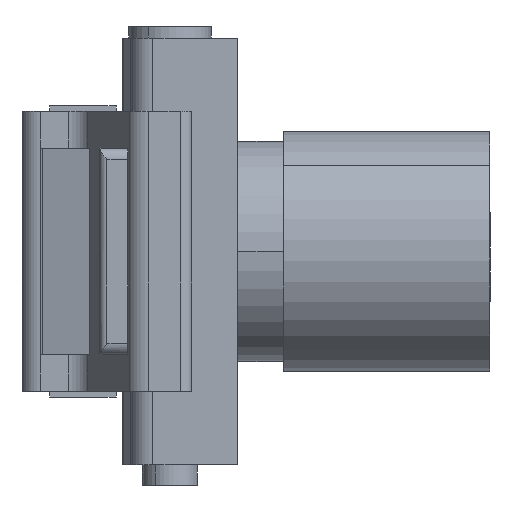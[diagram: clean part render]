
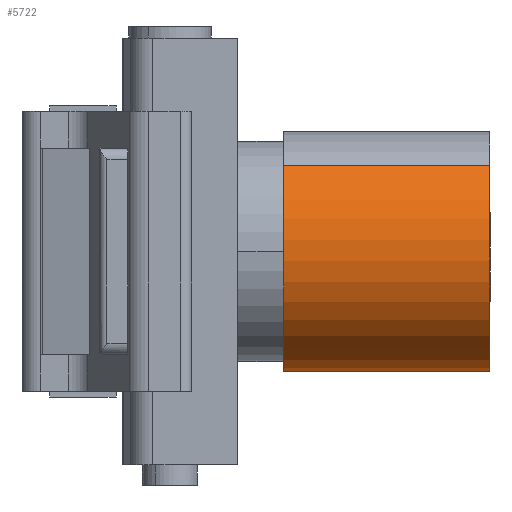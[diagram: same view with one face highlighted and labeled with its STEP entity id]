
A CAD part, left-side view. The second image highlights one B-rep face of the part: STEP entity #5722.
In plain terms, the highlighted cylindrical face has radius 5.25 mm (diameter 10.5 mm), a partial arc.
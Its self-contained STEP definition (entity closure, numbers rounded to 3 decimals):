
#196 = DIRECTION ( 'NONE',  ( 0., 1., 0. ) ) ;
#231 = CARTESIAN_POINT ( 'NONE',  ( -14.992, -5.3, 17.216 ) ) ;
#885 = LINE ( 'NONE', #5445, #1755 ) ;
#1406 = EDGE_CURVE ( 'NONE', #1747, #2747, #5129, .T. ) ;
#1465 = VECTOR ( 'NONE', #2899, 1000. ) ;
#1484 = ORIENTED_EDGE ( 'NONE', *, *, #3751, .F. ) ;
#1747 = VERTEX_POINT ( 'NONE', #5605 ) ;
#1755 = VECTOR ( 'NONE', #6830, 1000. ) ;
#1943 = DIRECTION ( 'NONE',  ( 0., -1., 0. ) ) ;
#1975 = DIRECTION ( 'NONE',  ( 0.702, 0., -0.712 ) ) ;
#2156 = ORIENTED_EDGE ( 'NONE', *, *, #4010, .F. ) ;
#2440 = FACE_OUTER_BOUND ( 'NONE', #4332, .T. ) ;
#2450 = CARTESIAN_POINT ( 'NONE',  ( -18.68, 9.549, 20.953 ) ) ;
#2474 = DIRECTION ( 'NONE',  ( 1., 0., 0. ) ) ;
#2656 = CARTESIAN_POINT ( 'NONE',  ( -14.992, -14.3, 17.216 ) ) ;
#2747 = VERTEX_POINT ( 'NONE', #4491 ) ;
#2899 = DIRECTION ( 'NONE',  ( 0., -1., 0. ) ) ;
#3663 = CARTESIAN_POINT ( 'NONE',  ( -14.992, 9.549, 17.216 ) ) ;
#3677 = ORIENTED_EDGE ( 'NONE', *, *, #1406, .F. ) ;
#3751 = EDGE_CURVE ( 'NONE', #2747, #6799, #4393, .T. ) ;
#4010 = EDGE_CURVE ( 'NONE', #4044, #1747, #7176, .T. ) ;
#4044 = VERTEX_POINT ( 'NONE', #7255 ) ;
#4291 = CYLINDRICAL_SURFACE ( 'NONE', #4836, 5.25 ) ;
#4332 = EDGE_LOOP ( 'NONE', ( #3677, #2156, #6977, #1484 ) ) ;
#4393 = CIRCLE ( 'NONE', #7381, 5.25 ) ;
#4491 = CARTESIAN_POINT ( 'NONE',  ( -18.68, -14.3, 20.953 ) ) ;
#4836 = AXIS2_PLACEMENT_3D ( 'NONE', #3663, #1943, #1975 ) ;
#4934 = DIRECTION ( 'NONE',  ( 0., -1., 0. ) ) ;
#5129 = LINE ( 'NONE', #2450, #1465 ) ;
#5445 = CARTESIAN_POINT ( 'NONE',  ( -11.304, 9.549, 13.479 ) ) ;
#5541 = CARTESIAN_POINT ( 'NONE',  ( -11.304, -14.3, 13.479 ) ) ;
#5605 = CARTESIAN_POINT ( 'NONE',  ( -18.68, -5.3, 20.953 ) ) ;
#5722 = ADVANCED_FACE ( 'NONE', ( #2440 ), #4291, .T. ) ;
#5869 = EDGE_CURVE ( 'NONE', #4044, #6799, #885, .T. ) ;
#6799 = VERTEX_POINT ( 'NONE', #5541 ) ;
#6830 = DIRECTION ( 'NONE',  ( 0., -1., 0. ) ) ;
#6977 = ORIENTED_EDGE ( 'NONE', *, *, #5869, .T. ) ;
#7176 = CIRCLE ( 'NONE', #7296, 5.25 ) ;
#7224 = DIRECTION ( 'NONE',  ( 0.702, 0., -0.712 ) ) ;
#7255 = CARTESIAN_POINT ( 'NONE',  ( -11.304, -5.3, 13.479 ) ) ;
#7296 = AXIS2_PLACEMENT_3D ( 'NONE', #231, #196, #2474 ) ;
#7381 = AXIS2_PLACEMENT_3D ( 'NONE', #2656, #4934, #7224 ) ;
